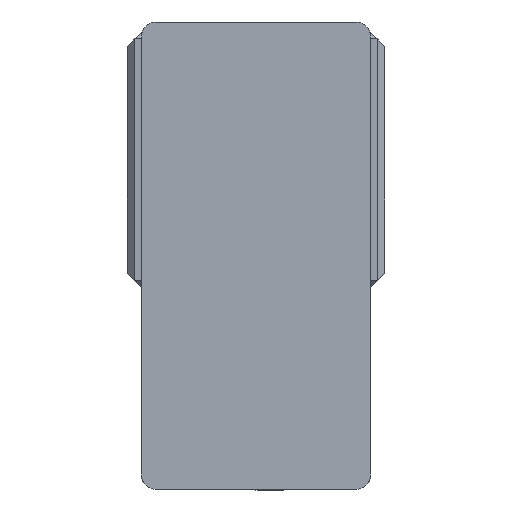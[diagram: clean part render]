
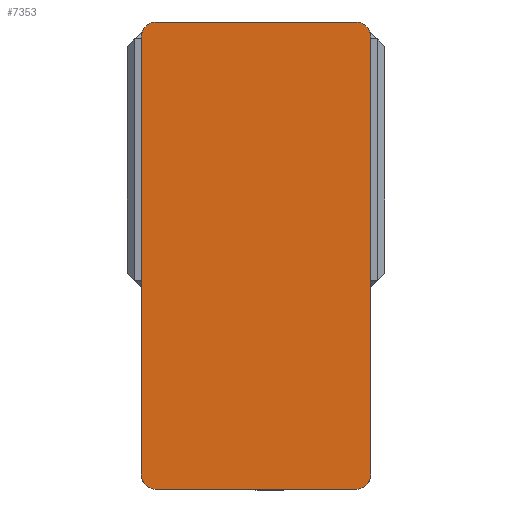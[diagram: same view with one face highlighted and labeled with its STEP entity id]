
A CAD part, left-side view. The second image highlights one B-rep face of the part: STEP entity #7353.
In plain terms, the highlighted planar face has unit normal (-1, 0, 0) as drawn and (0, 0, 1) by its records, which use the part's own axes.
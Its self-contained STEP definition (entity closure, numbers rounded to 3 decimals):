
#321 = DIRECTION ( 'NONE',  ( -1., 0., 0. ) ) ;
#401 = DIRECTION ( 'NONE',  ( 0., 0., 1. ) ) ;
#805 = DIRECTION ( 'NONE',  ( 0., 0., 1. ) ) ;
#1081 = EDGE_CURVE ( 'NONE', #6876, #2581, #1674, .T. ) ;
#1181 = LINE ( 'NONE', #11283, #3362 ) ;
#1655 = CARTESIAN_POINT ( 'NONE',  ( 65., 152.5, 105. ) ) ;
#1674 = LINE ( 'NONE', #3389, #9455 ) ;
#2567 = CARTESIAN_POINT ( 'NONE',  ( 0., 0., 105. ) ) ;
#2581 = VERTEX_POINT ( 'NONE', #10505 ) ;
#2619 = VECTOR ( 'NONE', #321, 1000. ) ;
#2893 = CARTESIAN_POINT ( 'NONE',  ( -75., 152.5, 105. ) ) ;
#2965 = CIRCLE ( 'NONE', #10032, 10. ) ;
#2996 = VERTEX_POINT ( 'NONE', #7319 ) ;
#3362 = VECTOR ( 'NONE', #14422, 1000. ) ;
#3389 = CARTESIAN_POINT ( 'NONE',  ( -75., -152.5, 105. ) ) ;
#3547 = VERTEX_POINT ( 'NONE', #5806 ) ;
#4278 = AXIS2_PLACEMENT_3D ( 'NONE', #2567, #7243, #18139 ) ;
#4441 = DIRECTION ( 'NONE',  ( 0., -1., 0. ) ) ;
#4575 = EDGE_CURVE ( 'NONE', #7131, #3547, #7227, .T. ) ;
#4923 = DIRECTION ( 'NONE',  ( 0., 0., 1. ) ) ;
#5125 = AXIS2_PLACEMENT_3D ( 'NONE', #6907, #17812, #8467 ) ;
#5419 = EDGE_CURVE ( 'NONE', #17426, #6876, #17688, .T. ) ;
#5438 = VERTEX_POINT ( 'NONE', #18941 ) ;
#5507 = AXIS2_PLACEMENT_3D ( 'NONE', #14241, #4923, #15810 ) ;
#5680 = EDGE_CURVE ( 'NONE', #14894, #7131, #14754, .T. ) ;
#5688 = PLANE ( 'NONE',  #4278 ) ;
#5806 = CARTESIAN_POINT ( 'NONE',  ( -65., 152.5, 105. ) ) ;
#6021 = ORIENTED_EDGE ( 'NONE', *, *, #4575, .T. ) ;
#6576 = CARTESIAN_POINT ( 'NONE',  ( -75., 152.5, 105. ) ) ;
#6876 = VERTEX_POINT ( 'NONE', #11833 ) ;
#6907 = CARTESIAN_POINT ( 'NONE',  ( 65., 142.5, 105. ) ) ;
#6908 = ORIENTED_EDGE ( 'NONE', *, *, #19325, .T. ) ;
#7131 = VERTEX_POINT ( 'NONE', #1655 ) ;
#7227 = LINE ( 'NONE', #6576, #2619 ) ;
#7243 = DIRECTION ( 'NONE',  ( 0., 0., 1. ) ) ;
#7319 = CARTESIAN_POINT ( 'NONE',  ( 75., -142.5, 105. ) ) ;
#7329 = CARTESIAN_POINT ( 'NONE',  ( 75., 142.5, 105. ) ) ;
#7353 = ADVANCED_FACE ( 'NONE', ( #14200 ), #5688, .T. ) ;
#8467 = DIRECTION ( 'NONE',  ( 1., 0., 0. ) ) ;
#8973 = CARTESIAN_POINT ( 'NONE',  ( -75., -142.5, 105. ) ) ;
#9455 = VECTOR ( 'NONE', #12702, 1000. ) ;
#9758 = CARTESIAN_POINT ( 'NONE',  ( -65., 142.5, 105. ) ) ;
#10032 = AXIS2_PLACEMENT_3D ( 'NONE', #10155, #805, #11730 ) ;
#10155 = CARTESIAN_POINT ( 'NONE',  ( 65., -142.5, 105. ) ) ;
#10505 = CARTESIAN_POINT ( 'NONE',  ( 65., -152.5, 105. ) ) ;
#10575 = CIRCLE ( 'NONE', #17013, 10. ) ;
#11283 = CARTESIAN_POINT ( 'NONE',  ( 75., 152.5, 105. ) ) ;
#11317 = ORIENTED_EDGE ( 'NONE', *, *, #16067, .T. ) ;
#11331 = DIRECTION ( 'NONE',  ( 1., 0., 0. ) ) ;
#11730 = DIRECTION ( 'NONE',  ( 1., 0., 0. ) ) ;
#11833 = CARTESIAN_POINT ( 'NONE',  ( -65., -152.5, 105. ) ) ;
#12114 = EDGE_CURVE ( 'NONE', #2996, #14894, #1181, .T. ) ;
#12620 = ORIENTED_EDGE ( 'NONE', *, *, #19938, .T. ) ;
#12702 = DIRECTION ( 'NONE',  ( 1., 0., 0. ) ) ;
#13454 = VECTOR ( 'NONE', #4441, 1000. ) ;
#14120 = ORIENTED_EDGE ( 'NONE', *, *, #5680, .T. ) ;
#14200 = FACE_OUTER_BOUND ( 'NONE', #15486, .T. ) ;
#14241 = CARTESIAN_POINT ( 'NONE',  ( -65., -142.5, 105. ) ) ;
#14422 = DIRECTION ( 'NONE',  ( 0., 1., 0. ) ) ;
#14754 = CIRCLE ( 'NONE', #5125, 10. ) ;
#14894 = VERTEX_POINT ( 'NONE', #7329 ) ;
#15358 = ORIENTED_EDGE ( 'NONE', *, *, #1081, .T. ) ;
#15486 = EDGE_LOOP ( 'NONE', ( #15358, #12620, #17808, #14120, #6021, #11317, #6908, #19735 ) ) ;
#15810 = DIRECTION ( 'NONE',  ( 1., 0., 0. ) ) ;
#16067 = EDGE_CURVE ( 'NONE', #3547, #5438, #10575, .T. ) ;
#17013 = AXIS2_PLACEMENT_3D ( 'NONE', #9758, #401, #11331 ) ;
#17097 = LINE ( 'NONE', #2893, #13454 ) ;
#17426 = VERTEX_POINT ( 'NONE', #8973 ) ;
#17688 = CIRCLE ( 'NONE', #5507, 10. ) ;
#17808 = ORIENTED_EDGE ( 'NONE', *, *, #12114, .T. ) ;
#17812 = DIRECTION ( 'NONE',  ( 0., 0., 1. ) ) ;
#18139 = DIRECTION ( 'NONE',  ( 1., 0., 0. ) ) ;
#18941 = CARTESIAN_POINT ( 'NONE',  ( -75., 142.5, 105. ) ) ;
#19325 = EDGE_CURVE ( 'NONE', #5438, #17426, #17097, .T. ) ;
#19735 = ORIENTED_EDGE ( 'NONE', *, *, #5419, .T. ) ;
#19938 = EDGE_CURVE ( 'NONE', #2581, #2996, #2965, .T. ) ;
